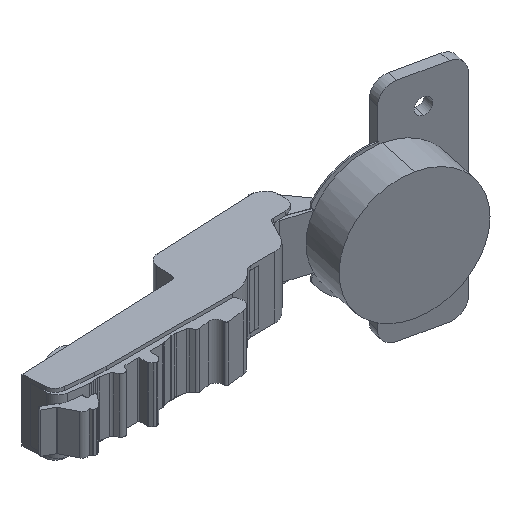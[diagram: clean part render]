
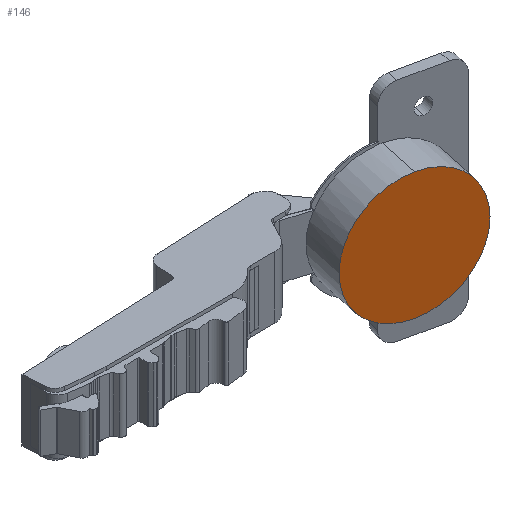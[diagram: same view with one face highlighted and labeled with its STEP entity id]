
A CAD part, isometric view. The second image highlights one B-rep face of the part: STEP entity #146.
In plain terms, the highlighted planar face has unit normal (-0.209, -0.978, 0).
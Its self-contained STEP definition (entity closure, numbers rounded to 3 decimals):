
#14 = EDGE_CURVE ( 'NONE', #3484, #4352, #3904, .T. ) ;
#107 = AXIS2_PLACEMENT_3D ( 'NONE', #2991, #3014, #4296 ) ;
#146 = ADVANCED_FACE ( 'NONE', ( #5026 ), #4713, .F. ) ;
#180 = EDGE_CURVE ( 'NONE', #4352, #3484, #548, .T. ) ;
#548 = CIRCLE ( 'NONE', #107, 17.4 ) ;
#739 = DIRECTION ( 'NONE',  ( -0.209, -0.978, 0. ) ) ;
#1200 = DIRECTION ( 'NONE',  ( 0., 0., -1. ) ) ;
#1951 = CARTESIAN_POINT ( 'NONE',  ( 18.939, -14.277, 0. ) ) ;
#2043 = AXIS2_PLACEMENT_3D ( 'NONE', #1951, #739, #1200 ) ;
#2077 = DIRECTION ( 'NONE',  ( 0., 0., 1. ) ) ;
#2192 = CARTESIAN_POINT ( 'NONE',  ( 29.663, -16.573, -7.7 ) ) ;
#2663 = ORIENTED_EDGE ( 'NONE', *, *, #180, .T. ) ;
#2902 = CARTESIAN_POINT ( 'NONE',  ( 18.939, -14.277, 17.4 ) ) ;
#2991 = CARTESIAN_POINT ( 'NONE',  ( 18.939, -14.277, 0. ) ) ;
#3014 = DIRECTION ( 'NONE',  ( -0.209, -0.978, 0. ) ) ;
#3025 = ORIENTED_EDGE ( 'NONE', *, *, #14, .T. ) ;
#3484 = VERTEX_POINT ( 'NONE', #4425 ) ;
#3725 = AXIS2_PLACEMENT_3D ( 'NONE', #2192, #3797, #2077 ) ;
#3797 = DIRECTION ( 'NONE',  ( 0.209, 0.978, 0. ) ) ;
#3904 = CIRCLE ( 'NONE', #2043, 17.4 ) ;
#4296 = DIRECTION ( 'NONE',  ( 0., 0., -1. ) ) ;
#4352 = VERTEX_POINT ( 'NONE', #2902 ) ;
#4425 = CARTESIAN_POINT ( 'NONE',  ( 18.939, -14.277, -17.4 ) ) ;
#4483 = EDGE_LOOP ( 'NONE', ( #2663, #3025 ) ) ;
#4713 = PLANE ( 'NONE',  #3725 ) ;
#5026 = FACE_OUTER_BOUND ( 'NONE', #4483, .T. ) ;
